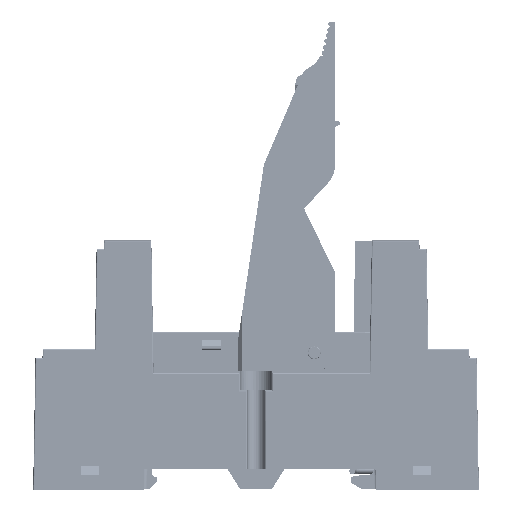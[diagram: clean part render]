
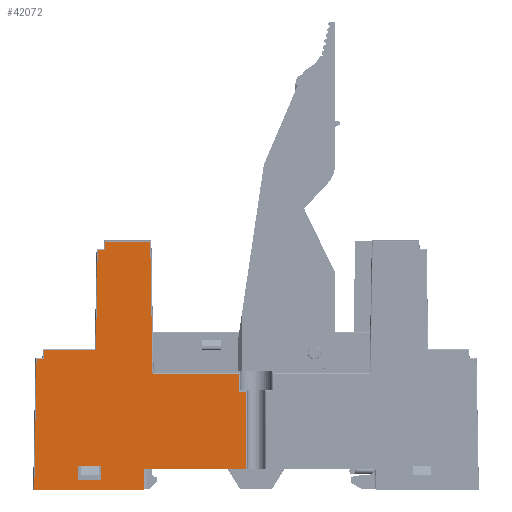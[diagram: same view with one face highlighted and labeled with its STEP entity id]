
A CAD part, top view. The second image highlights one B-rep face of the part: STEP entity #42072.
In plain terms, the highlighted planar face has unit normal (0, 0, 1).
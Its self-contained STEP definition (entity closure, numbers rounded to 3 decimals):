
#6744=LINE('',#127373,#15503);
#7037=LINE('',#128258,#15796);
#8060=LINE('',#130513,#16819);
#8062=LINE('',#130520,#16821);
#8064=LINE('',#130526,#16823);
#8066=LINE('',#130534,#16825);
#8068=LINE('',#130539,#16827);
#8072=LINE('',#130547,#16831);
#8074=LINE('',#130551,#16833);
#8075=LINE('',#130553,#16834);
#8076=LINE('',#130555,#16835);
#8083=LINE('',#130573,#16842);
#8085=LINE('',#130578,#16844);
#8086=LINE('',#130582,#16845);
#8094=LINE('',#130598,#16853);
#8095=LINE('',#130600,#16854);
#8099=LINE('',#130607,#16858);
#8102=LINE('',#130614,#16861);
#8103=LINE('',#130617,#16862);
#8104=LINE('',#130619,#16863);
#15503=VECTOR('',#104735,1.);
#15796=VECTOR('',#105392,1.);
#16819=VECTOR('',#107651,1.);
#16821=VECTOR('',#107659,1.);
#16823=VECTOR('',#107665,1.);
#16825=VECTOR('',#107673,1.);
#16827=VECTOR('',#107679,1.);
#16831=VECTOR('',#107685,1.);
#16833=VECTOR('',#107689,1.);
#16834=VECTOR('',#107692,1.);
#16835=VECTOR('',#107695,1.);
#16842=VECTOR('',#107716,1.);
#16844=VECTOR('',#107722,1.);
#16845=VECTOR('',#107727,1.);
#16853=VECTOR('',#107745,1.);
#16854=VECTOR('',#107748,1.);
#16858=VECTOR('',#107758,1.);
#16861=VECTOR('',#107767,1.);
#16862=VECTOR('',#107772,1.);
#16863=VECTOR('',#107775,1.);
#33925=PLANE('',#95937);
#42072=ADVANCED_FACE('',(#45332,#45333),#33925,.T.);
#45332=FACE_BOUND('',#47124,.T.);
#45333=FACE_BOUND('',#47125,.T.);
#47124=EDGE_LOOP('',(#58046,#58047,#58048,#58049,#58050,#58051,#58052,#58053,
#58054,#58055,#58056,#58057,#58058,#58059,#58060,#58061));
#47125=EDGE_LOOP('',(#58062,#58063,#58064,#58065));
#58046=ORIENTED_EDGE('',*,*,#84238,.T.);
#58047=ORIENTED_EDGE('',*,*,#85409,.T.);
#58048=ORIENTED_EDGE('',*,*,#85405,.T.);
#58049=ORIENTED_EDGE('',*,*,#85367,.T.);
#58050=ORIENTED_EDGE('',*,*,#85387,.T.);
#58051=ORIENTED_EDGE('',*,*,#85401,.T.);
#58052=ORIENTED_EDGE('',*,*,#85390,.T.);
#58053=ORIENTED_EDGE('',*,*,#85392,.T.);
#58054=ORIENTED_EDGE('',*,*,#85363,.T.);
#58055=ORIENTED_EDGE('',*,*,#85360,.T.);
#58056=ORIENTED_EDGE('',*,*,#85400,.T.);
#58057=ORIENTED_EDGE('',*,*,#85378,.T.);
#58058=ORIENTED_EDGE('',*,*,#85356,.T.);
#58059=ORIENTED_EDGE('',*,*,#85410,.T.);
#58060=ORIENTED_EDGE('',*,*,#83857,.T.);
#58061=ORIENTED_EDGE('',*,*,#85411,.T.);
#58062=ORIENTED_EDGE('',*,*,#85376,.F.);
#58063=ORIENTED_EDGE('',*,*,#85377,.F.);
#58064=ORIENTED_EDGE('',*,*,#85370,.F.);
#58065=ORIENTED_EDGE('',*,*,#85374,.F.);
#75541=VERTEX_POINT('',#127372);
#75542=VERTEX_POINT('',#127374);
#75819=VERTEX_POINT('',#128257);
#75820=VERTEX_POINT('',#128259);
#76409=VERTEX_POINT('',#130512);
#76410=VERTEX_POINT('',#130514);
#76411=VERTEX_POINT('',#130519);
#76412=VERTEX_POINT('',#130521);
#76414=VERTEX_POINT('',#130527);
#76416=VERTEX_POINT('',#130533);
#76417=VERTEX_POINT('',#130535);
#76418=VERTEX_POINT('',#130540);
#76419=VERTEX_POINT('',#130541);
#76420=VERTEX_POINT('',#130546);
#76421=VERTEX_POINT('',#130550);
#76422=VERTEX_POINT('',#130556);
#76425=VERTEX_POINT('',#130572);
#76426=VERTEX_POINT('',#130577);
#76427=VERTEX_POINT('',#130579);
#76431=VERTEX_POINT('',#130608);
#83857=EDGE_CURVE('',#75542,#75541,#6744,.T.);
#84238=EDGE_CURVE('',#75820,#75819,#7037,.T.);
#85356=EDGE_CURVE('',#76410,#76409,#8060,.T.);
#85360=EDGE_CURVE('',#76412,#76411,#8062,.T.);
#85363=EDGE_CURVE('',#76414,#76412,#8064,.T.);
#85367=EDGE_CURVE('',#76417,#76416,#8066,.T.);
#85370=EDGE_CURVE('',#76418,#76419,#8068,.T.);
#85374=EDGE_CURVE('',#76420,#76418,#8072,.T.);
#85376=EDGE_CURVE('',#76421,#76420,#8074,.T.);
#85377=EDGE_CURVE('',#76419,#76421,#8075,.T.);
#85378=EDGE_CURVE('',#76422,#76410,#8076,.T.);
#85387=EDGE_CURVE('',#76416,#76425,#8083,.T.);
#85390=EDGE_CURVE('',#76427,#76426,#8085,.T.);
#85392=EDGE_CURVE('',#76426,#76414,#8086,.T.);
#85400=EDGE_CURVE('',#76411,#76422,#8094,.T.);
#85401=EDGE_CURVE('',#76425,#76427,#8095,.T.);
#85405=EDGE_CURVE('',#76431,#76417,#8099,.T.);
#85409=EDGE_CURVE('',#75819,#76431,#8102,.T.);
#85410=EDGE_CURVE('',#76409,#75542,#8103,.T.);
#85411=EDGE_CURVE('',#75541,#75820,#8104,.T.);
#95937=AXIS2_PLACEMENT_3D('',#130620,#107776,#107777);
#104735=DIRECTION('',(1.,0.,0.));
#105392=DIRECTION('',(1.,0.,0.));
#107651=DIRECTION('',(-1.,0.,0.));
#107659=DIRECTION('',(-0.017,-1.,0.));
#107665=DIRECTION('',(-1.,0.,0.));
#107673=DIRECTION('',(0.,1.,0.));
#107679=DIRECTION('',(-1.,0.,0.));
#107685=DIRECTION('',(0.,1.,0.));
#107689=DIRECTION('',(1.,0.,0.));
#107692=DIRECTION('',(0.,-1.,0.));
#107695=DIRECTION('',(-0.017,-1.,0.));
#107716=DIRECTION('',(-1.,0.,0.));
#107722=DIRECTION('',(-1.,0.,0.));
#107727=DIRECTION('',(-0.017,-1.,0.));
#107745=DIRECTION('',(-1.,0.,0.));
#107748=DIRECTION('',(-0.017,1.,0.));
#107758=DIRECTION('',(-1.,0.,0.));
#107767=DIRECTION('',(0.,1.,0.));
#107772=DIRECTION('',(-0.017,-1.,0.));
#107775=DIRECTION('',(0.03,1.,0.));
#107776=DIRECTION('',(0.,0.,1.));
#107777=DIRECTION('',(-1.,0.,0.));
#127372=CARTESIAN_POINT('',(-31.017,7.363,13.6));
#127373=CARTESIAN_POINT('',(-30.836,7.363,13.6));
#127374=CARTESIAN_POINT('',(-49.603,7.363,13.6));
#128257=CARTESIAN_POINT('',(-13.611,10.863,13.6));
#128258=CARTESIAN_POINT('',(-30.861,10.863,13.6));
#128259=CARTESIAN_POINT('',(-30.911,10.863,13.6));
#130512=CARTESIAN_POINT('',(-49.216,29.563,13.6));
#130513=CARTESIAN_POINT('',(-49.412,29.563,13.6));
#130514=CARTESIAN_POINT('',(-48.016,29.563,13.6));
#130519=CARTESIAN_POINT('',(-39.112,31.063,13.6));
#130520=CARTESIAN_POINT('',(-39.109,31.259,13.6));
#130521=CARTESIAN_POINT('',(-38.816,48.063,13.6));
#130526=CARTESIAN_POINT('',(-39.012,48.063,13.6));
#130527=CARTESIAN_POINT('',(-37.616,48.063,13.6));
#130533=CARTESIAN_POINT('',(-14.811,27.063,13.6));
#130534=CARTESIAN_POINT('',(-14.811,29.763,13.6));
#130535=CARTESIAN_POINT('',(-14.811,24.063,13.6));
#130539=CARTESIAN_POINT('',(-38.186,11.463,13.6));
#130540=CARTESIAN_POINT('',(-38.186,11.463,13.6));
#130541=CARTESIAN_POINT('',(-42.186,11.463,13.6));
#130546=CARTESIAN_POINT('',(-38.186,9.063,13.6));
#130547=CARTESIAN_POINT('',(-38.186,9.063,13.6));
#130550=CARTESIAN_POINT('',(-42.186,9.063,13.6));
#130551=CARTESIAN_POINT('',(-38.186,9.063,13.6));
#130553=CARTESIAN_POINT('',(-42.186,9.063,13.6));
#130555=CARTESIAN_POINT('',(-48.012,29.759,13.6));
#130556=CARTESIAN_POINT('',(-47.99,31.063,13.6));
#130572=CARTESIAN_POINT('',(-29.49,27.063,13.6));
#130573=CARTESIAN_POINT('',(-49.411,27.063,13.6));
#130577=CARTESIAN_POINT('',(-37.59,49.563,13.6));
#130578=CARTESIAN_POINT('',(-37.786,49.563,13.6));
#130579=CARTESIAN_POINT('',(-29.883,49.563,13.6));
#130582=CARTESIAN_POINT('',(-37.612,48.259,13.6));
#130598=CARTESIAN_POINT('',(-48.186,31.063,13.6));
#130600=CARTESIAN_POINT('',(-29.543,30.109,13.6));
#130607=CARTESIAN_POINT('',(-49.411,24.063,13.6));
#130608=CARTESIAN_POINT('',(-13.611,24.063,13.6));
#130614=CARTESIAN_POINT('',(-13.611,24.263,13.6));
#130617=CARTESIAN_POINT('',(-49.603,7.359,13.6));
#130619=CARTESIAN_POINT('',(-30.911,10.857,13.6));
#130620=CARTESIAN_POINT('',(-49.411,29.763,13.6));
